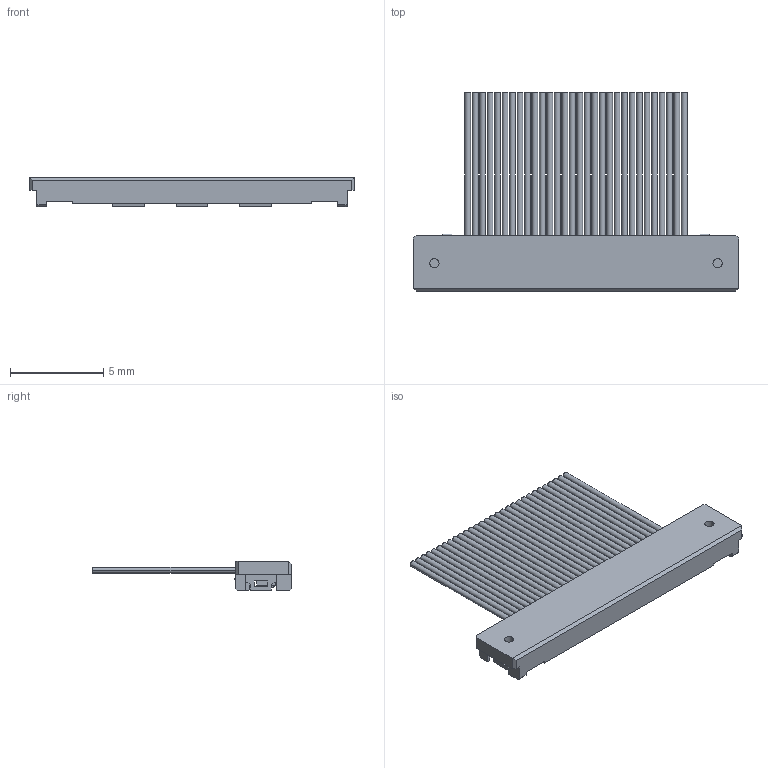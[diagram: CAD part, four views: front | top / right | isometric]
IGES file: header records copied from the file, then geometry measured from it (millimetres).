
Start section: Elysium IGES Interface
Global section: file name: C:\Users\1088\Desktop\P39809_USLS20-30\P39809_USLS20-30.igs; native system: CoCreate Modeling 17.0B  09-Oct-2010; preprocessor: CoCreate IGES_3D V2.2; author: Unknown; organization: Unknown; date: 20171122.175129; units: millimetre
Bounding box: 17.4 x 10.63 x 1.58 mm (x, y, z)
Volume: 69.7 mm3; surface area: 421.1 mm2
Topology: 1 solids, 1 shells, 797 faces, 2054 edges, 1326 vertices
Faces by surface type: bspline 797
